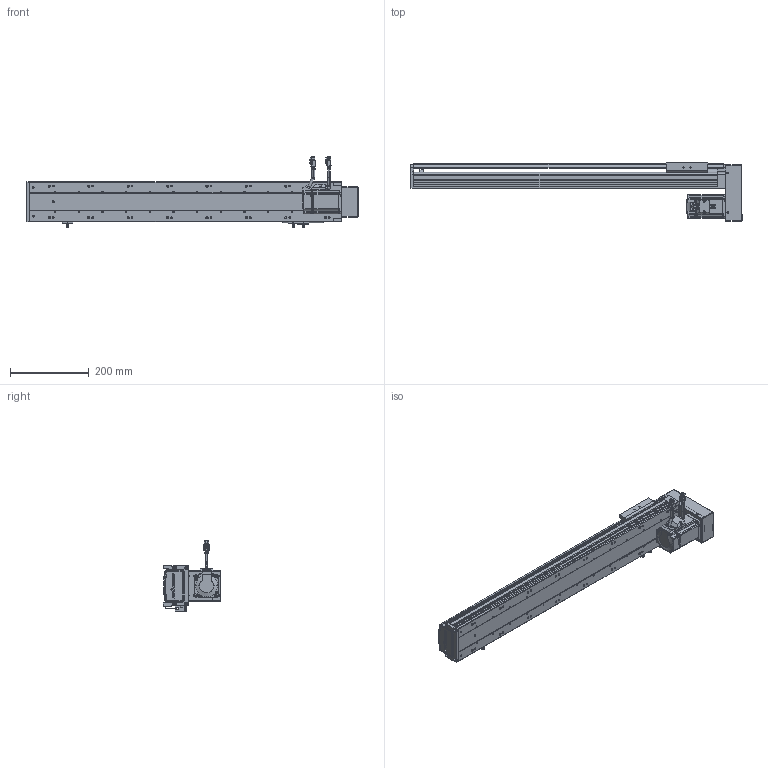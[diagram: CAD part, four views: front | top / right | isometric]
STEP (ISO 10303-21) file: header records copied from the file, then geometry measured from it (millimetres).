
FILE_DESCRIPTION (( 'STEP AP203' ), '1' );
FILE_NAME ('RY100S-L1620-300-BK(15双轨).SLDASM_600.step', '2021-02-20T08:23:21', ( '盈信电脑' ), ( '东莞市道滘镇水果街19号' ), 'SwSTEP 2.0', 'SolidWorks 2012', '' );
FILE_SCHEMA (( 'CONFIG_CONTROL_DESIGN' ));
Products named in the file (26): 肮祭湍5M遵15笚酗260; RY100S-狟殏萇儂郪; RY100S下折电机安装板（15双轨）; RY100S-L1620-300-BK(15邧寢).SLDASM_600; 6; 7; 侂狟200W萇儂; 5; 2; 4; 3; RY80肮祭湍覃踡啣; RY100S狟殏萇儂欶(15邧寢); 1; 3M30喘15遵; 滅袉蝶18-24; RY80肮祭湍芢雄輸; RY100綴裔啣; RY100S-絳寢EGH15-350-LK(腴郪15邧寢)_600; 滅袉蝶18-10; RY100俋离覜茼え; RY100S转折电机端支撑座(15双轨); 覜茼ん672; RY100S-350-LK型材底座(低组15双轨)_600; RY100S铝滑块（15双轨单滑块）底组装导轨; RY100S-300-LK转折型材上盖(15双轨)_600
Assembly tree (28 placements, depth 4):
  RY100S-L1620-300-BK(15邧寢).SLDASM_600
    RY100S-350-LK型材底座(低组15双轨)_600
    RY100S-300-LK转折型材上盖(15双轨)_600
    RY100S铝滑块（15双轨单滑块）底组装导轨
    覜茼ん672  x3
    滅袉蝶18-10
    RY100俋离覜茼え
    RY100S转折电机端支撑座(15双轨)
    滅袉蝶18-24
    RY100綴裔啣
    RY100S-絳寢EGH15-350-LK(腴郪15邧寢)_600
    RY100S-狟殏萇儂郪
      RY80肮祭湍芢雄輸  x2
      RY100S狟殏萇儂欶(15邧寢)
      3M30喘15遵
      RY80肮祭湍覃踡啣
      侂狟200W萇儂
        1
        2
        3
        4
        5
        6
        7
      肮祭湍5M遵15笚酗260
      RY100S下折电机安装板（15双轨）
Bounding box: 842 x 147 x 179.5 mm (x, y, z)
Volume: 2184641.3 mm3; surface area: 849771.3 mm2
Topology: 26 solids, 26 shells, 3332 faces, 8969 edges, 5786 vertices
Faces by surface type: plane 1738, cylinder 1311, cone 169, bspline 114
Entity records: 108544 total; most frequent: CARTESIAN_POINT 26931, ORIENTED_EDGE 16642, DIRECTION 16152, EDGE_CURVE 8321, AXIS2_PLACEMENT_3D 5538, VERTEX_POINT 5422, LINE 5076, VECTOR 5076
